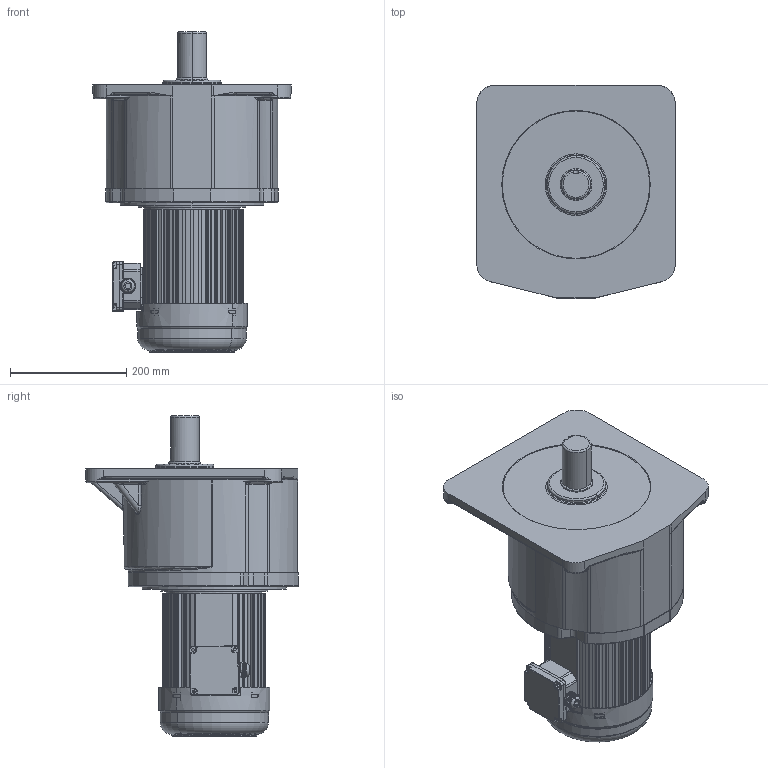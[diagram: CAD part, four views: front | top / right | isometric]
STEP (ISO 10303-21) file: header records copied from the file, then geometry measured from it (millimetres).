
FILE_DESCRIPTION (( 'STEP AP203' ), '1' );
FILE_NAME ('1500W饜6#蕾宒.STEP', '2020-04-15T02:31:36', ( 'china' ), ( 'china' ), 'SwSTEP 2.0', 'SolidWorks 2019', '' );
FILE_SCHEMA (( 'CONFIG_CONTROL_DESIGN' ));
Length unit declared in the file: millimetre
Products named in the file (8): 1500W饜6#蕾宒; 瑞欶; 1500W儂褲; 蜊輛綴諉盄碟釱3; 1500W綴傷裔; 諉芛; 蜊輛綴諉盄碟裔3; 1.5KW6#蕾宒眊极
Assembly tree (7 placements, depth 2):
  1500W饜6#蕾宒
    1500W儂褲
    1500W綴傷裔
    瑞欶
    蜊輛綴諉盄碟釱3
    諉芛
    蜊輛綴諉盄碟裔3
    1.5KW6#蕾宒眊极
Bounding box: 342 x 367 x 552.95 mm (x, y, z)
Volume: 14025642.6 mm3; surface area: 1381907.5 mm2
Topology: 7 solids, 9 shells, 3091 faces, 8180 edges, 5139 vertices
Faces by surface type: plane 1255, cylinder 1012, bspline 336, torus 317, cone 123, sphere 48
Entity records: 120377 total; most frequent: CARTESIAN_POINT 44087, ORIENTED_EDGE 16244, DIRECTION 15282, EDGE_CURVE 8122, AXIS2_PLACEMENT_3D 5427, VERTEX_POINT 5125, LINE 4428, VECTOR 4428
